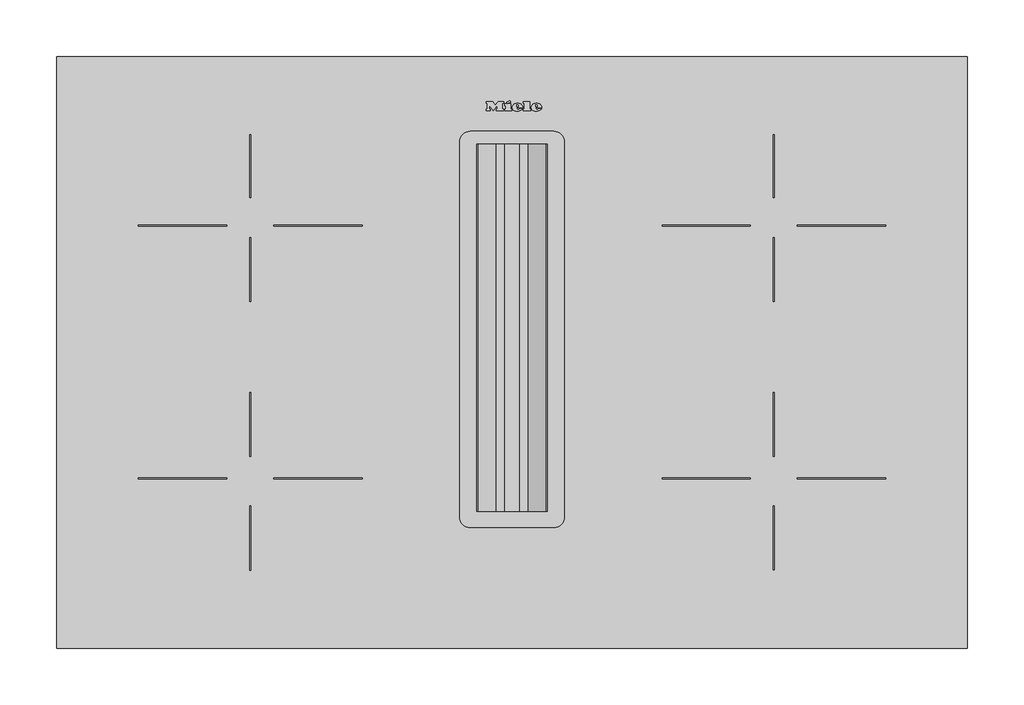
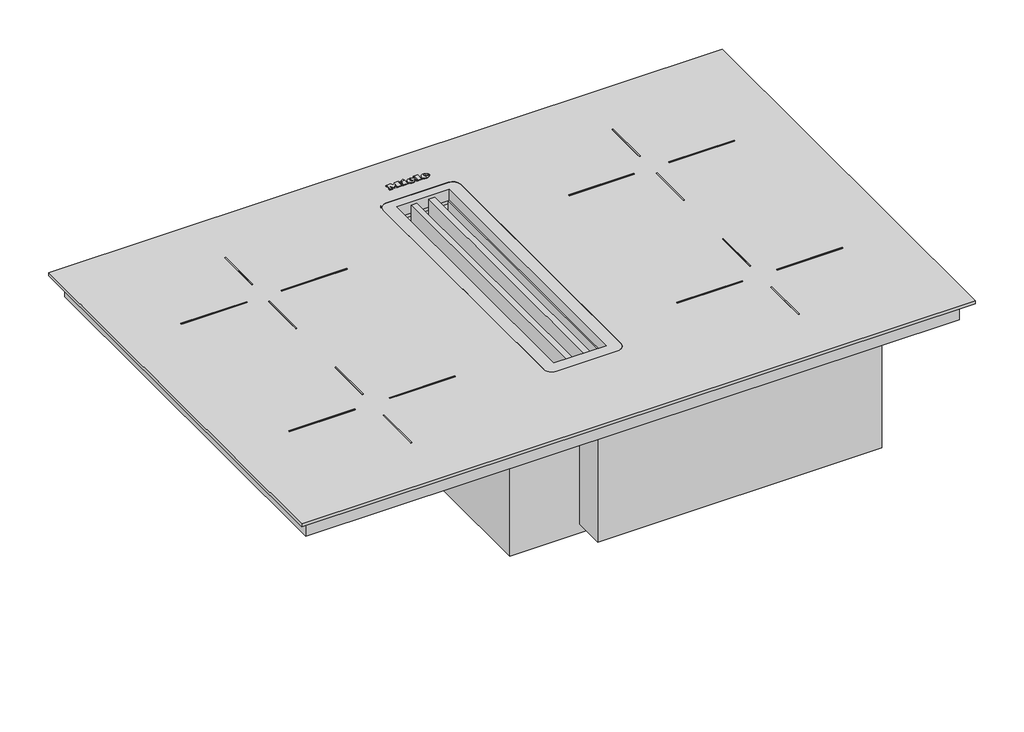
# Not in any storey: 1 proxy.
"""IFC4 building model written with IfcOpenShell, lengths in millimetres."""

import ifcopenshell
import ifcopenshell.guid

model = None  # the IFC model being written
_history = None  # IfcOwnerHistory: only IFC2X3 demands one
_inside = {}  # id of a spatial element -> (the spatial element, [elements in it])
_under = {}  # id of a project, library or spatial element -> (it, [spatial elements below it])
_declared = {}  # id of a project -> (the project, [libraries it declares])
_typed = {}  # id of a type object -> (the type object, [elements of that type])
_made_of = {}  # id of a material, layer set ... -> (it, [elements and type objects made of it])


def new_model(schema):
    """Start an empty IFC model of exactly this schema.

    Asked for "IFC4X3", IfcOpenShell would pick the latest addendum, in which some entities
    have other attributes; the version numbers below select the first issue.
    IFC2X3 requires an IfcOwnerHistory on every rooted entity: one is made here for all.
    """
    global model, _history
    if schema == "IFC4X3":
        model = ifcopenshell.file(schema_version=(4, 3, 0, 0))
    else:
        model = ifcopenshell.file(schema=schema)
    _inside.clear()
    _under.clear()
    _declared.clear()
    _typed.clear()
    _made_of.clear()
    _history = None
    if model.schema == "IFC2X3":
        org = make("IfcOrganization", Name="unknown")
        user = make(
            "IfcPersonAndOrganization",
            ThePerson=make("IfcPerson", FamilyName="unknown"),
            TheOrganization=org,
        )
        app = make(
            "IfcApplication",
            ApplicationDeveloper=org,
            Version="unknown",
            ApplicationFullName="unknown",
            ApplicationIdentifier="unknown",
        )
        _history = make(
            "IfcOwnerHistory",
            OwningUser=user,
            OwningApplication=app,
            ChangeAction="ADDED",
            CreationDate=0,
        )
    return model


def make(cls, **values):
    """One entity of the class cls with the attributes given. An attribute that is None is left unset."""
    return model.create_entity(
        cls, **{name: value for name, value in values.items() if value is not None}
    )


def rooted(cls, **values):
    """An entity with a GlobalId (a new one), such as an element, a storey or a relation."""
    return make(cls, GlobalId=ifcopenshell.guid.new(), OwnerHistory=_history, **values)


def si_unit(unit_type, name, prefix=None):
    """IfcSIUnit, for example si_unit("LENGTHUNIT", "METRE", prefix="MILLI")."""
    return make("IfcSIUnit", UnitType=unit_type, Prefix=prefix, Name=name)


def assignment(units):
    """IfcUnitAssignment: the units of a project."""
    return None if units is None else make("IfcUnitAssignment", Units=units)


def point(xyz):
    """IfcCartesianPoint."""
    return None if xyz is None else make("IfcCartesianPoint", Coordinates=xyz)


def direction(xyz):
    """IfcDirection."""
    return None if xyz is None else make("IfcDirection", DirectionRatios=xyz)


def frame(location, z_axis=None, x_axis=None):
    """IfcAxis2Placement3D, a coordinate frame: its origin and axes. An axis left out is left unset."""
    return make(
        "IfcAxis2Placement3D",
        Location=point(location),
        Axis=direction(z_axis),
        RefDirection=direction(x_axis),
    )


def frame_2d(location, x_axis=None):
    """IfcAxis2Placement2D, a coordinate frame in the plane: its origin and x axis."""
    return make(
        "IfcAxis2Placement2D", Location=point(location), RefDirection=direction(x_axis)
    )


def origin():
    """The frame at (0, 0, 0) with its axes left unset."""
    return frame((0.0, 0.0, 0.0))


def origin_with_axes():
    """The frame at (0, 0, 0) with the z axis (0, 0, 1) and the x axis (1, 0, 0) written out."""
    return frame((0.0, 0.0, 0.0), z_axis=(0.0, 0.0, 1.0), x_axis=(1.0, 0.0, 0.0))


def place(relative_to, where):
    """IfcLocalPlacement: puts the frame where relative to a parent placement (None: the world)."""
    return make(
        "IfcLocalPlacement", PlacementRelTo=relative_to, RelativePlacement=where
    )


def context(
    kind, dimensions, precision=None, world=None, true_north=None, identifier=None
):
    """IfcGeometricRepresentationContext, for example the 3D "Model" context."""
    return make(
        "IfcGeometricRepresentationContext",
        ContextIdentifier=identifier,
        ContextType=kind,
        CoordinateSpaceDimension=dimensions,
        Precision=precision,
        WorldCoordinateSystem=world,
        TrueNorth=true_north,
    )


def project(units=None, contexts=None):
    """IfcProject with its units and contexts."""
    return rooted(
        "IfcProject",
        Name="project",
        RepresentationContexts=contexts,
        UnitsInContext=assignment(units),
    )


def spatial(cls, under=None, at=None, **own):
    """A site, building, storey or space (cls), placed at a placement, below another one or the project."""
    s = rooted(cls, ObjectPlacement=at, **own)
    if under is not None:
        _under.setdefault(under.id(), (under, []))[1].append(s)
    return s


def polyline(points):
    """IfcPolyline through the points."""
    return make("IfcPolyline", Points=[point(p) for p in points])


def circle_curve(where, radius):
    """IfcCircle in the frame where."""
    return make("IfcCircle", Position=where, Radius=radius)


def ellipse_curve(where, semi_axis1, semi_axis2):
    """IfcEllipse in the frame where."""
    return make(
        "IfcEllipse", Position=where, SemiAxis1=semi_axis1, SemiAxis2=semi_axis2
    )


def trimmed(basis, trim1, trim2, sense, master):
    """IfcTrimmedCurve: the piece of a basis curve between two trims."""
    return make(
        "IfcTrimmedCurve",
        BasisCurve=basis,
        Trim1=trim1,
        Trim2=trim2,
        SenseAgreement=sense,
        MasterRepresentation=master,
    )


def segment(curve, same_sense, transition):
    """IfcCompositeCurveSegment."""
    return make(
        "IfcCompositeCurveSegment",
        Transition=transition,
        SameSense=same_sense,
        ParentCurve=curve,
    )


def composite_curve(segments, self_intersect=None):
    """IfcCompositeCurve: segments joined end to end."""
    return make("IfcCompositeCurve", Segments=segments, SelfIntersect=self_intersect)


def outline(outer, holes=None, kind="AREA"):
    """IfcArbitraryClosedProfileDef: a profile drawn as a closed curve; with holes, ...WithVoids."""
    if holes is None:
        return make("IfcArbitraryClosedProfileDef", ProfileType=kind, OuterCurve=outer)
    return make(
        "IfcArbitraryProfileDefWithVoids",
        ProfileType=kind,
        OuterCurve=outer,
        InnerCurves=holes,
    )


def extrude(swept, where, along, depth):
    """IfcExtrudedAreaSolid: the profile swept, set in the frame where, extruded along a direction by depth."""
    return make(
        "IfcExtrudedAreaSolid",
        SweptArea=swept,
        Position=where,
        ExtrudedDirection=direction(along),
        Depth=depth,
    )


def faces_of(points, faces, orient=None, outer=None):
    """IfcFace entities. A face is a list of loops; a loop is a list of indices into points, from 0.

    orient and outer hold one flag for each loop. By default every Orientation is true, the
    first loop of a face is its IfcFaceOuterBound and the others are IfcFaceBound.
    """
    made = []
    for i, loops in enumerate(faces):
        bounds = []
        for j, loop in enumerate(loops):
            is_outer = j == 0 if outer is None else outer[i][j]
            bounds.append(
                make(
                    "IfcFaceOuterBound" if is_outer else "IfcFaceBound",
                    Bound=make("IfcPolyLoop", Polygon=[points[k] for k in loop]),
                    Orientation=True if orient is None else orient[i][j],
                )
            )
        made.append(make("IfcFace", Bounds=bounds))
    return made


def faceted_brep(points, faces, orient=None, outer=None, voids=None):
    """IfcFacetedBrep: a solid bounded by flat faces; with voids (closed shells), ...WithVoids."""
    shared = [point(p) for p in points]
    hull = make("IfcClosedShell", CfsFaces=faces_of(shared, faces, orient, outer))
    if voids is None:
        return make("IfcFacetedBrep", Outer=hull)
    return make(
        "IfcFacetedBrepWithVoids",
        Outer=hull,
        Voids=[
            make(cls, CfsFaces=faces_of(shared, fs, o, b)) for cls, fs, o, b in voids
        ],
    )


def shape(context_of_items, identifier, shape_type, items):
    """IfcShapeRepresentation: the items that make up one representation, for example the "Body"."""
    return make(
        "IfcShapeRepresentation",
        ContextOfItems=context_of_items,
        RepresentationIdentifier=identifier,
        RepresentationType=shape_type,
        Items=items,
    )


def source(mapping_origin, context_of_items, identifier, shape_type, items):
    """IfcRepresentationMap: a shape defined once, which mapped items show again and again."""
    return make(
        "IfcRepresentationMap",
        MappingOrigin=mapping_origin,
        MappedRepresentation=shape(context_of_items, identifier, shape_type, items),
    )


def transform(
    local_origin,
    x_axis=None,
    y_axis=None,
    z_axis=None,
    scale=None,
    scale2=None,
    scale3=None,
    uniform=True,
):
    """IfcCartesianTransformationOperator3D, or its non-uniform kind. x_axis, y_axis, z_axis: its Axis1, 2, 3."""
    if uniform:
        return make(
            "IfcCartesianTransformationOperator3D",
            Axis1=direction(x_axis),
            Axis2=direction(y_axis),
            LocalOrigin=point(local_origin),
            Scale=scale,
            Axis3=direction(z_axis),
        )
    return make(
        "IfcCartesianTransformationOperator3DnonUniform",
        Axis1=direction(x_axis),
        Axis2=direction(y_axis),
        LocalOrigin=point(local_origin),
        Scale=scale,
        Axis3=direction(z_axis),
        Scale2=scale2,
        Scale3=scale3,
    )


def mapped(mapping_source, mapping_target):
    """IfcMappedItem: shows the shape of a source again, moved by a transform."""
    return make(
        "IfcMappedItem", MappingSource=mapping_source, MappingTarget=mapping_target
    )


def made_of(thing, what):
    """Note that an element or type object is made of a material, layer set ...; save() writes the relation."""
    if what is not None:
        _made_of.setdefault(what.id(), (what, []))[1].append(thing)
    return thing


def element(
    cls,
    number,
    at=None,
    inside=None,
    cuts=None,
    type_object=None,
    material=None,
    context=None,
    identifier="Body",
    shape_type=None,
    held_by="IfcProductDefinitionShape",
    body=None,
    shapes=None,
    **own,
):
    """One element of the class cls, such as IfcWall. Its Tag is "e" and its number.

    at: its placement. inside: the storey or other place that contains it. cuts: it is an
    opening in that element (IfcRelVoidsElement). A single representation is given by context,
    identifier, shape_type and body (its items); several are given by shapes. held_by: the class
    of the entity that holds the representations. save() writes the other relations.
    """
    e = rooted(cls, Tag="e%d" % number, ObjectPlacement=at, **own)
    if body is not None:
        shapes = [shape(context, identifier, shape_type, body)]
    if shapes is not None:
        e.Representation = make(held_by, Representations=shapes)
    if inside is not None:
        _inside.setdefault(inside.id(), (inside, []))[1].append(e)
    if cuts is not None:
        rooted(
            "IfcRelVoidsElement", RelatingBuildingElement=cuts, RelatedOpeningElement=e
        )
    if type_object is not None:
        _typed.setdefault(type_object.id(), (type_object, []))[1].append(e)
    return made_of(e, material)


def aggregate(whole, parts):
    """IfcRelAggregates: a whole, such as a stair, and the parts it consists of."""
    return rooted("IfcRelAggregates", RelatingObject=whole, RelatedObjects=parts)


def save(model, path):
    """Write the relations noted so far, then the file.

    IfcRelAggregates (storeys below a building ...), IfcRelContainedInSpatialStructure (elements
    in a storey), IfcRelDefinesByType, IfcRelAssociatesMaterial and IfcRelDeclares: one each for
    every whole, place, type object, material and project.
    """
    for whole, parts in _under.values():
        aggregate(whole, parts)
    for where, things in _inside.values():
        rooted(
            "IfcRelContainedInSpatialStructure",
            RelatedElements=things,
            RelatingStructure=where,
        )
    for kind, things in _typed.values():
        rooted("IfcRelDefinesByType", RelatedObjects=things, RelatingType=kind)
    for what, things in _made_of.values():
        rooted("IfcRelAssociatesMaterial", RelatedObjects=things, RelatingMaterial=what)
    for by, libraries in _declared.values():
        rooted("IfcRelDeclares", RelatingContext=by, RelatedDefinitions=libraries)
    model.write(path)


def plane_surface(at):
    """IfcPlane: the flat surface through the origin of the frame at, square to its z axis."""
    return make("IfcPlane", Position=at)


def cylinder_surface(at, radius):
    """IfcCylindricalSurface: all points at the distance radius from the z axis of the frame at."""
    return make("IfcCylindricalSurface", Position=at, Radius=radius)


def revolved_surface(curve, axis_point, axis_direction):
    """IfcSurfaceOfRevolution: the curve turned about the line through axis_point along axis_direction."""
    return make(
        "IfcSurfaceOfRevolution",
        SweptCurve=make("IfcArbitraryOpenProfileDef", ProfileType="CURVE", Curve=curve),
        AxisPosition=make("IfcAxis1Placement", Location=point(axis_point), Axis=direction(axis_direction)),
    )


def extruded_surface(curve, direction_of_extrusion, depth):
    """IfcSurfaceOfLinearExtrusion: the curve pushed along a direction by depth."""
    return make(
        "IfcSurfaceOfLinearExtrusion",
        SweptCurve=make("IfcArbitraryOpenProfileDef", ProfileType="CURVE", Curve=curve),
        ExtrudedDirection=direction(direction_of_extrusion),
        Depth=depth,
    )


def advanced_brep(points, edges, surfaces, faces):
    """IfcAdvancedBrep: a solid bounded by faces that lie on surfaces and meet in shared edges.

    An edge is (start, end): straight between two places in points (the first is 0);
    or (start, end, curve); or (start, end, curve, False) where it runs against its curve.
    A face is (place in surfaces, loops), or (place, loops, False) where it looks against
    its surface's normal. A loop lists edges by number (the first is 1), with a minus sign
    where the edge is run from its end to its start. The first loop is the outer one.
    """
    corners = [point(p) for p in points]
    vertices = [make("IfcVertexPoint", VertexGeometry=c) for c in corners]
    made = []
    for start, end, *more in edges:
        made.append(
            make(
                "IfcEdgeCurve",
                EdgeStart=vertices[start],
                EdgeEnd=vertices[end],
                EdgeGeometry=more[0] if more else make("IfcPolyline", Points=[corners[start], corners[end]]),
                SameSense=more[1] if len(more) > 1 else True,
            )
        )
    hull = []
    for where, loops, *sense in faces:
        bounds = []
        for j, loop in enumerate(loops):
            ring = [make("IfcOrientedEdge", EdgeElement=made[abs(k) - 1], Orientation=k > 0) for k in loop]
            bounds.append(
                make(
                    "IfcFaceOuterBound" if j == 0 else "IfcFaceBound",
                    Bound=make("IfcEdgeLoop", EdgeList=ring),
                    Orientation=True,
                )
            )
        hull.append(make("IfcAdvancedFace", Bounds=bounds, FaceSurface=surfaces[where], SameSense=sense[0] if sense else True))
    return make("IfcAdvancedBrep", Outer=make("IfcClosedShell", CfsFaces=hull))


def specialty_equipment_1488fc75(model_context):
    return source(origin(), model_context, "Body", "SolidModel", [
        advanced_brep(
        [(20.8243124, 474.5406203, 5.0), (20.8243124, 475.3486203, 5.0), (26.1763124, 475.3486203, 5.0), (16.8643124, 475.3486203, 5.0), (19.0643124, 472.6446203, 5.0), (26.0403124, 474.5406203, 5.0), (23.6243124, 474.5406203, 5.0), (21.7203124, 473.6446203, 5.0), (20.8243124, 476.3726203, 5.0), (20.8243124, 477.2446203, 5.0), (22.1923124, 477.2446203, 5.0), (22.1923124, 476.3726203, 5.0), (20.8243124, 474.5406203, 4.0), (21.7203124, 473.6446203, 4.0), (23.6243124, 474.5406203, 4.0), (26.0403124, 474.5406203, 4.0), (19.0643124, 472.6446203, 4.0), (16.8643124, 475.3486203, 4.0), (26.1763124, 475.3486203, 4.0), (20.8243124, 475.3486203, 4.0), (20.8243124, 476.3726203, 4.0), (22.1923124, 476.3726203, 4.0), (22.1923124, 477.2446203, 4.0), (20.8243124, 477.2446203, 4.0)],
        [
            (0, 1),
            (1, 2),
            (2, 3, ellipse_curve(frame((21.5203124, 475.3486203, 5.0), z_axis=(0.0, 0.0, 1.0), x_axis=(-1.0, 0.0, 0.0)), 4.656, 3.848)),
            (3, 4, circle_curve(frame((19.960356, 475.6206203, 5.0), z_axis=(0.0, 0.0, 1.0), x_axis=(0.0, -1.0, 0.0)), 3.1079688)),
            (4, 5, circle_curve(frame((21.4271059, 477.7326203, 5.0), z_axis=(0.0, 0.0, 1.0), x_axis=(0.0, -1.0, 0.0)), 5.6098607)),
            (5, 6),
            (6, 7, circle_curve(frame((22.1113712, 475.2846203, 5.0), z_axis=(0.0, 0.0, -1.0), x_axis=(0.0, -1.0, 0.0)), 1.6859795)),
            (7, 0, circle_curve(frame((21.7203124, 474.5406203, 5.0), z_axis=(0.0, 0.0, -1.0), x_axis=(0.0, -1.0, 0.0)), 0.896)),
            (8, 9),
            (9, 10, circle_curve(frame((21.5083124, 477.2446203, 5.0), z_axis=(0.0, 0.0, -1.0), x_axis=(0.0, -1.0, 0.0)), 0.684)),
            (10, 11),
            (11, 8),
            (12, 13, circle_curve(frame((21.7203124, 474.5406203, 4.0), z_axis=(0.0, 0.0, 1.0), x_axis=(0.0, -1.0, 0.0)), 0.896)),
            (13, 14, circle_curve(frame((22.1113712, 475.2846203, 4.0), z_axis=(0.0, 0.0, 1.0), x_axis=(0.0, -1.0, 0.0)), 1.6859795)),
            (14, 15),
            (15, 16, circle_curve(frame((21.4271059, 477.7326203, 4.0), z_axis=(0.0, 0.0, -1.0), x_axis=(0.0, -1.0, 0.0)), 5.6098607)),
            (16, 17, circle_curve(frame((19.960356, 475.6206203, 4.0), z_axis=(0.0, 0.0, -1.0), x_axis=(0.0, -1.0, 0.0)), 3.1079688)),
            (17, 18, ellipse_curve(frame((21.5203124, 475.3486203, 4.0), z_axis=(0.0, 0.0, -1.0), x_axis=(-1.0, 0.0, 0.0)), 4.656, 3.848)),
            (18, 19),
            (19, 12),
            (20, 21),
            (21, 22),
            (22, 23, circle_curve(frame((21.5083124, 477.2446203, 4.0), z_axis=(0.0, 0.0, 1.0), x_axis=(0.0, -1.0, 0.0)), 0.684)),
            (23, 20),
            (0, 12),
            (19, 1),
            (18, 2),
            (5, 15),
            (14, 6),
            (17, 3),
            (13, 7),
            (16, 4),
            (8, 20),
            (23, 9),
            (22, 10),
            (21, 11),
        ],
        [
            plane_surface(frame((20.8243124, 475.3486203, 5.0), z_axis=(0.0, 0.0, 1.0), x_axis=(0.0, 1.0, 0.0))),
            plane_surface(frame((20.8243124, 475.3486203, 4.0), z_axis=(0.0, 0.0, -1.0), x_axis=(0.0, -1.0, 0.0))),
            plane_surface(frame((20.8243124, 474.5406203, 5.0), z_axis=(1.0, 0.0, 0.0), x_axis=(0.0, 0.0, -1.0))),
            plane_surface(frame((20.8243124, 475.3486203, 5.0), z_axis=(0.0, -1.0, 0.0), x_axis=(0.0, 0.0, -1.0))),
            plane_surface(frame((26.0403124, 474.5406203, 5.0), z_axis=(0.0, 1.0, 0.0), x_axis=(0.0, 0.0, -1.0))),
            extruded_surface(trimmed(ellipse_curve(frame((21.5203124, 475.3486203, 3.0), z_axis=(0.0, 0.0, 1.0), x_axis=(-1.0, 0.0, 0.0)), 4.656, 3.848), [point((26.1763124, 475.3486203, 3.0))], [point((16.8643124, 475.3486203, 3.0))], True, "CARTESIAN"), (0.0, 0.0, 1.0), 1.0),
            revolved_surface(polyline([(22.1113712, 473.5986408, 4.0), (22.1113712, 473.5986408, 5.0)]), (22.1113712, 475.2846203, 4.0), (0.0, 0.0, -1.0)),
            revolved_surface(polyline([(21.7203124, 473.6446203, 4.0), (21.7203124, 473.6446203, 5.0)]), (21.7203124, 474.5406203, 4.0), (0.0, 0.0, -1.0)),
            cylinder_surface(frame((19.960356, 475.6206203, 4.0), z_axis=(0.0, 0.0, 1.0), x_axis=(0.0, -1.0, 0.0)), 3.1079688),
            cylinder_surface(frame((21.4271059, 477.7326203, 4.0), z_axis=(0.0, 0.0, 1.0), x_axis=(0.0, -1.0, 0.0)), 5.6098607),
            plane_surface(frame((20.8243124, 476.3726203, 5.0), z_axis=(1.0, 0.0, 0.0), x_axis=(0.0, 0.0, -1.0))),
            revolved_surface(polyline([(21.5083124, 476.5606203, 4.0), (21.5083124, 476.5606203, 5.0)]), (21.5083124, 477.2446203, 4.0), (0.0, 0.0, -1.0)),
            plane_surface(frame((22.1923124, 477.2446203, 5.0), z_axis=(-1.0, 0.0, 0.0), x_axis=(0.0, 0.0, -1.0))),
            plane_surface(frame((22.1923124, 476.3726203, 5.0), z_axis=(0.0, 1.0, 0.0), x_axis=(0.0, 0.0, -1.0))),
        ],
        [
            (0, [[1, 2, 3, 4, 5, 6, 7, 8], [9, 10, 11, 12]]),
            (1, [[13, 14, 15, 16, 17, 18, 19, 20], [21, 22, 23, 24]]),
            (2, [[-1, 25, -20, 26]]),
            (3, [[-2, -26, -19, 27]]),
            (4, [[-6, 28, -15, 29]]),
            (5, [[-3, -27, -18, 30]]),
            (6, [[-7, -29, -14, 31]]),
            (7, [[-8, -31, -13, -25]]),
            (8, [[-4, -30, -17, 32]]),
            (9, [[-5, -32, -16, -28]]),
            (10, [[-9, 33, -24, 34]]),
            (11, [[-10, -34, -23, 35]]),
            (12, [[-11, -35, -22, 36]]),
            (13, [[-12, -36, -21, -33]]),
        ],
    ),
        advanced_brep(
        [(4.1283124, 474.5406203, 5.0), (4.1283124, 475.3486203, 5.0), (9.4803124, 475.3486203, 5.0), (0.1683124, 475.3486203, 5.0), (2.3683124, 472.6446203, 5.0), (9.3443124, 474.5406203, 5.0), (6.9283124, 474.5406203, 5.0), (5.0243124, 473.6446203, 5.0), (4.1283124, 476.3726203, 5.0), (4.1283124, 477.2446203, 5.0), (5.4963124, 477.2446203, 5.0), (5.4963124, 476.3726203, 5.0), (4.1283124, 474.5406203, 4.0), (5.0243124, 473.6446203, 4.0), (6.9283124, 474.5406203, 4.0), (9.3443124, 474.5406203, 4.0), (2.3683124, 472.6446203, 4.0), (0.1683124, 475.3486203, 4.0), (9.4803124, 475.3486203, 4.0), (4.1283124, 475.3486203, 4.0), (4.1283124, 476.3726203, 4.0), (5.4963124, 476.3726203, 4.0), (5.4963124, 477.2446203, 4.0), (4.1283124, 477.2446203, 4.0)],
        [
            (0, 1),
            (1, 2),
            (2, 3, ellipse_curve(frame((4.8243124, 475.3486203, 5.0), z_axis=(0.0, 0.0, 1.0), x_axis=(-1.0, 0.0, 0.0)), 4.656, 3.848)),
            (3, 4, circle_curve(frame((3.264356, 475.6206203, 5.0), z_axis=(0.0, 0.0, 1.0), x_axis=(0.0, -1.0, 0.0)), 3.1079688)),
            (4, 5, circle_curve(frame((4.7311059, 477.7326203, 5.0), z_axis=(0.0, 0.0, 1.0), x_axis=(0.0, -1.0, 0.0)), 5.6098607)),
            (5, 6),
            (6, 7, circle_curve(frame((5.4153712, 475.2846203, 5.0), z_axis=(0.0, 0.0, -1.0), x_axis=(0.0, -1.0, 0.0)), 1.6859795)),
            (7, 0, circle_curve(frame((5.0243124, 474.5406203, 5.0), z_axis=(0.0, 0.0, -1.0), x_axis=(0.0, -1.0, 0.0)), 0.896)),
            (8, 9),
            (9, 10, circle_curve(frame((4.8123124, 477.2446203, 5.0), z_axis=(0.0, 0.0, -1.0), x_axis=(0.0, -1.0, 0.0)), 0.684)),
            (10, 11),
            (11, 8),
            (12, 13, circle_curve(frame((5.0243124, 474.5406203, 4.0), z_axis=(0.0, 0.0, 1.0), x_axis=(0.0, -1.0, 0.0)), 0.896)),
            (13, 14, circle_curve(frame((5.4153712, 475.2846203, 4.0), z_axis=(0.0, 0.0, 1.0), x_axis=(0.0, -1.0, 0.0)), 1.6859795)),
            (14, 15),
            (15, 16, circle_curve(frame((4.7311059, 477.7326203, 4.0), z_axis=(0.0, 0.0, -1.0), x_axis=(0.0, -1.0, 0.0)), 5.6098607)),
            (16, 17, circle_curve(frame((3.264356, 475.6206203, 4.0), z_axis=(0.0, 0.0, -1.0), x_axis=(0.0, -1.0, 0.0)), 3.1079688)),
            (17, 18, ellipse_curve(frame((4.8243124, 475.3486203, 4.0), z_axis=(0.0, 0.0, -1.0), x_axis=(-1.0, 0.0, 0.0)), 4.656, 3.848)),
            (18, 19),
            (19, 12),
            (20, 21),
            (21, 22),
            (22, 23, circle_curve(frame((4.8123124, 477.2446203, 4.0), z_axis=(0.0, 0.0, 1.0), x_axis=(0.0, -1.0, 0.0)), 0.684)),
            (23, 20),
            (0, 12),
            (19, 1),
            (18, 2),
            (5, 15),
            (14, 6),
            (17, 3),
            (13, 7),
            (16, 4),
            (8, 20),
            (23, 9),
            (22, 10),
            (21, 11),
        ],
        [
            plane_surface(frame((4.1283124, 475.3486203, 5.0), z_axis=(0.0, 0.0, 1.0), x_axis=(0.0, 1.0, 0.0))),
            plane_surface(frame((4.1283124, 475.3486203, 4.0), z_axis=(0.0, 0.0, -1.0), x_axis=(0.0, -1.0, 0.0))),
            plane_surface(frame((4.1283124, 474.5406203, 5.0), z_axis=(1.0, 0.0, 0.0), x_axis=(0.0, 0.0, -1.0))),
            plane_surface(frame((4.1283124, 475.3486203, 5.0), z_axis=(0.0, -1.0, 0.0), x_axis=(0.0, 0.0, -1.0))),
            plane_surface(frame((9.3443124, 474.5406203, 5.0), z_axis=(0.0, 1.0, 0.0), x_axis=(0.0, 0.0, -1.0))),
            extruded_surface(trimmed(ellipse_curve(frame((4.8243124, 475.3486203, 3.0), z_axis=(0.0, 0.0, 1.0), x_axis=(-1.0, 0.0, 0.0)), 4.656, 3.848), [point((9.4803124, 475.3486203, 3.0))], [point((0.1683124, 475.3486203, 3.0))], True, "CARTESIAN"), (0.0, 0.0, 1.0), 1.0),
            revolved_surface(polyline([(5.4153712, 473.5986408, 4.0), (5.4153712, 473.5986408, 5.0)]), (5.4153712, 475.2846203, 4.0), (0.0, 0.0, -1.0)),
            revolved_surface(polyline([(5.0243124, 473.6446203, 4.0), (5.0243124, 473.6446203, 5.0)]), (5.0243124, 474.5406203, 4.0), (0.0, 0.0, -1.0)),
            cylinder_surface(frame((3.264356, 475.6206203, 4.0), z_axis=(0.0, 0.0, 1.0), x_axis=(0.0, -1.0, 0.0)), 3.1079688),
            cylinder_surface(frame((4.7311059, 477.7326203, 4.0), z_axis=(0.0, 0.0, 1.0), x_axis=(0.0, -1.0, 0.0)), 5.6098607),
            plane_surface(frame((4.1283124, 476.3726203, 5.0), z_axis=(1.0, 0.0, 0.0), x_axis=(0.0, 0.0, -1.0))),
            revolved_surface(polyline([(4.8123124, 476.5606203, 4.0), (4.8123124, 476.5606203, 5.0)]), (4.8123124, 477.2446203, 4.0), (0.0, 0.0, -1.0)),
            plane_surface(frame((5.4963124, 477.2446203, 5.0), z_axis=(-1.0, 0.0, 0.0), x_axis=(0.0, 0.0, -1.0))),
            plane_surface(frame((5.4963124, 476.3726203, 5.0), z_axis=(0.0, 1.0, 0.0), x_axis=(0.0, 0.0, -1.0))),
        ],
        [
            (0, [[1, 2, 3, 4, 5, 6, 7, 8], [9, 10, 11, 12]]),
            (1, [[13, 14, 15, 16, 17, 18, 19, 20], [21, 22, 23, 24]]),
            (2, [[-1, 25, -20, 26]]),
            (3, [[-2, -26, -19, 27]]),
            (4, [[-6, 28, -15, 29]]),
            (5, [[-3, -27, -18, 30]]),
            (6, [[-7, -29, -14, 31]]),
            (7, [[-8, -31, -13, -25]]),
            (8, [[-4, -30, -17, 32]]),
            (9, [[-5, -32, -16, -28]]),
            (10, [[-9, 33, -24, 34]]),
            (11, [[-10, -34, -23, 35]]),
            (12, [[-11, -35, -22, 36]]),
            (13, [[-12, -36, -21, -33]]),
        ],
    ),
        extrude(outline(polyline([(-4.6156876, 480.1726203), (-1.8956876, 481.4366203), (-1.2956876, 480.1406203), (-4.0076876, 478.8766203), (-4.6156876, 480.1726203)])), frame((0.0, 0.0, 4.0), z_axis=(0.0, 0.0, 1.0), x_axis=(1.0, 0.0, 0.0)), (0.0, 0.0, 1.0), 1.0),
        extrude(outline(polyline([(-6.5916876, 478.7006203), (-1.2076876, 478.7006203), (-1.2076876, 473.9886203), (-0.2796876, 473.9886203), (-0.2796876, 472.6446203), (-6.5916876, 472.6446203), (-6.5916876, 473.9886203), (-5.6396876, 473.9886203), (-5.6396876, 477.2686203), (-6.5916876, 477.2686203), (-6.5916876, 478.7006203)])), frame((0.0, 0.0, 4.0), z_axis=(0.0, 0.0, 1.0), x_axis=(1.0, 0.0, 0.0)), (0.0, 0.0, 1.0), 1.0),
        extrude(outline(polyline([(9.9283124, 479.3406203), (9.9283124, 480.6446203), (15.4323124, 480.6446203), (15.4323124, 473.9886203), (16.4163124, 473.9886203), (16.4163124, 472.6446203), (9.9283124, 472.6446203), (9.9283124, 473.9886203), (10.8883124, 473.9886203), (10.8883124, 479.3406203), (9.9283124, 479.3406203)])), frame((0.0, 0.0, 4.0), z_axis=(0.0, 0.0, 1.0), x_axis=(1.0, 0.0, 0.0)), (0.0, 0.0, 1.0), 1.0),
        extrude(outline(polyline([(-22.5356876, 479.3406203), (-22.5356876, 480.6446203), (-16.9596876, 480.6446203), (-14.6156876, 477.6446203), (-12.2796876, 480.6446203), (-7.4076876, 480.6446203), (-7.4076876, 479.3406203), (-8.4236876, 479.3406203), (-8.4236876, 473.9886203), (-7.4076876, 473.9886203), (-7.4076876, 472.6446203), (-13.7916876, 472.6446203), (-13.7916876, 473.9886203), (-12.8076876, 473.9886203), (-12.8076876, 477.4598426), (-16.3996876, 472.6446203), (-19.9756876, 477.3917451), (-19.9756876, 473.9886203), (-19.0156876, 473.9886203), (-19.0156876, 472.6446203), (-22.5356876, 472.6446203), (-22.5356876, 473.9886203), (-21.5676876, 473.9886203), (-21.5676876, 479.3406203), (-22.5356876, 479.3406203)])), frame((0.0, 0.0, 4.0), z_axis=(0.0, 0.0, 1.0), x_axis=(1.0, 0.0, 0.0)), (0.0, 0.0, 1.0), 1.0),
        faceted_brep([(-71.7186221, 460.5236466, -23.0), (-364.8972461, 460.5236466, -23.0), (-364.8972461, 59.427471, -23.0), (-71.7186221, 59.427471, -23.0), (-71.7186221, 59.427471, -49.8134964), (-364.8972461, 59.427471, -49.8134964), (-364.8972461, 460.5236466, -49.8134964), (-86.144412, 460.5236466, -49.8134964), (-86.144412, 352.5236466, -49.8134964), (-71.7186221, 352.5236466, -49.8134964), (-71.7186221, 460.5236466, -31.728133), (-86.144412, 460.5236466, -31.728133), (-71.7186221, 352.5236466, -31.728133), (-86.144412, 352.5236466, -31.728133)], [[[0, 1, 2, 3]], [[4, 5, 6, 7, 8, 9]], [[1, 0, 10, 11, 7, 6]], [[2, 1, 6, 5]], [[3, 2, 5, 4]], [[0, 3, 4, 9, 12, 10]], [[8, 13, 12, 9]], [[12, 13, 11, 10]], [[13, 8, 7, 11]]]),
        extrude(outline(polyline([(388.0, 508.0), (388.0, 12.0), (-388.0, 12.0), (-388.0, 508.0), (388.0, 508.0)]), holes=[composite_curve([segment(trimmed(circle_curve(frame_2d((36.5, 115.5)), 9.5), [point((36.5, 106.0))], [point((46.0, 115.5))], True, "CARTESIAN"), True, "CONTINUOUS"), segment(polyline([(46.0, 115.5), (46.0, 445.0)]), True, "CONTINUOUS"), segment(trimmed(circle_curve(frame_2d((36.5, 445.0)), 9.5), [point((46.0, 445.0))], [point((36.5, 454.5))], True, "CARTESIAN"), True, "CONTINUOUS"), segment(polyline([(36.5, 454.5), (-36.5395335, 454.5)]), True, "CONTINUOUS"), segment(trimmed(circle_curve(frame_2d((-36.5395335, 445.0395335)), 9.4604665), [point((-36.5395335, 454.5))], [point((-46.0, 445.0395335))], True, "CARTESIAN"), True, "CONTINUOUS"), segment(polyline([(-46.0, 445.0395335), (-46.0, 115.5)]), True, "CONTINUOUS"), segment(trimmed(circle_curve(frame_2d((-36.5, 115.5)), 9.5), [point((-46.0, 115.5))], [point((-36.5, 106.0))], True, "CARTESIAN"), True, "CONTINUOUS"), segment(polyline([(-36.5, 106.0), (36.5, 106.0)]), True, "CONTINUOUS")], self_intersect=False)]), frame((0.0, 0.0, -23.0), z_axis=(0.0, 0.0, 1.0), x_axis=(1.0, 0.0, 0.0)), (0.0, 0.0, 1.0), 23.0),
        extrude(outline(polyline([(400.0, 520.0), (400.0, 0.0), (-400.0, 0.0), (-400.0, 520.0), (400.0, 520.0)]), holes=[composite_curve([segment(polyline([(36.5, 454.5), (-36.5, 454.5)]), True, "CONTINUOUS"), segment(trimmed(circle_curve(frame_2d((-36.5, 445.0)), 9.5), [point((-36.5, 454.5))], [point((-46.0, 445.0))], True, "CARTESIAN"), True, "CONTINUOUS"), segment(polyline([(-46.0, 445.0), (-46.0, 115.5)]), True, "CONTINUOUS"), segment(trimmed(circle_curve(frame_2d((-36.5, 115.5)), 9.5), [point((-46.0, 115.5))], [point((-36.5, 106.0))], True, "CARTESIAN"), True, "CONTINUOUS"), segment(polyline([(-36.5, 106.0), (36.5, 106.0)]), True, "CONTINUOUS"), segment(trimmed(circle_curve(frame_2d((36.5, 115.5)), 9.5), [point((36.5, 106.0))], [point((46.0, 115.5))], True, "CARTESIAN"), True, "CONTINUOUS"), segment(polyline([(46.0, 115.5), (46.0, 445.0)]), True, "CONTINUOUS"), segment(trimmed(circle_curve(frame_2d((36.5, 445.0)), 9.5), [point((46.0, 445.0))], [point((36.5, 454.5))], True, "CARTESIAN"), True, "CONTINUOUS")], self_intersect=False)]), origin_with_axes(), (0.0, 0.0, 1.0), 4.0),
        extrude(outline(polyline([(229.5, 361.0), (230.5, 361.0), (230.5, 305.0), (229.5, 305.0), (229.5, 361.0)])), frame((0.0, 0.0, 4.0), z_axis=(0.0, 0.0, 1.0), x_axis=(1.0, 0.0, 0.0)), (0.0, 0.0, 1.0), 1.0),
        extrude(outline(polyline([(230.5, 168.6409309), (229.5, 168.6409309), (229.5, 224.6409309), (230.5, 224.6409309), (230.5, 168.6409309)])), frame((0.0, 0.0, 4.0), z_axis=(0.0, 0.0, 1.0), x_axis=(1.0, 0.0, 0.0)), (0.0, 0.0, 1.0), 1.0),
        extrude(outline(polyline([(-229.5, 361.0), (-229.5, 305.0), (-230.5, 305.0), (-230.5, 361.0), (-229.5, 361.0)])), frame((0.0, 0.0, 4.0), z_axis=(0.0, 0.0, 1.0), x_axis=(1.0, 0.0, 0.0)), (0.0, 0.0, 1.0), 1.0),
        extrude(outline(polyline([(-230.5, 168.6409309), (-230.5, 224.6409309), (-229.5, 224.6409309), (-229.5, 168.6409309), (-230.5, 168.6409309)])), frame((0.0, 0.0, 4.0), z_axis=(0.0, 0.0, 1.0), x_axis=(1.0, 0.0, 0.0)), (0.0, 0.0, 1.0), 1.0),
        extrude(outline(polyline([(-45.5823584, -70.2509053), (-35.5367274, -70.2509053), (-35.5367274, -77.4712026), (-36.7924312, -77.4712026), (-36.7924312, -71.5066091), (-39.7747279, -71.5066091), (-39.7747279, -77.1572766), (-41.0304318, -77.1572766), (-41.0304318, -71.5066091), (-44.3266545, -71.5066091), (-44.3266545, -77.6281655), (-45.5823584, -77.6281655), (-45.5823584, -70.2509053)])), frame((0.0, 405.5236466, 0.0), z_axis=(0.0, 1.0, 0.0), x_axis=(0.0, 0.0, 1.0)), (0.0, 0.0, 1.0), 1.0),
        extrude(outline(polyline([(-45.5823584, -79.5117214), (-35.5367274, -79.5117214), (-35.5367274, -80.7674252), (-44.3266545, -80.7674252), (-44.3266545, -85.7902407), (-45.5823584, -85.7902407), (-45.5823584, -79.5117214)])), frame((0.0, 405.5236466, 0.0), z_axis=(0.0, 1.0, 0.0), x_axis=(0.0, 0.0, 1.0)), (0.0, 0.0, 1.0), 1.0),
        advanced_brep(
        [(-86.144412, 370.5236466, -40.8134964), (-86.144412, 380.5236466, -40.8134964), (-71.144412, 370.5236466, -40.8134964), (-81.144412, 380.5236466, -40.8134964), (-71.144412, 405.5236466, -40.8134964), (-81.144412, 405.5236466, -40.8134964)],
        [
            (0, 1, circle_curve(frame((-86.144412, 375.5236466, -40.8134964), z_axis=(-1.0, 0.0, 0.0), x_axis=(0.0, 1.0, 0.0)), 5.0)),
            (1, 0, circle_curve(frame((-86.144412, 375.5236466, -40.8134964), z_axis=(-1.0, 0.0, 0.0), x_axis=(0.0, 1.0, 0.0)), 5.0)),
            (0, 2),
            (2, 3, ellipse_curve(frame((-76.144412, 375.5236466, -40.8134964), z_axis=(-0.7071067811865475, -0.7071067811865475, 0.0), x_axis=(-0.7071067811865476, 0.7071067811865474, 0.0)), 7.0710678, 5.0)),
            (3, 1),
            (3, 2, ellipse_curve(frame((-76.144412, 375.5236466, -40.8134964), z_axis=(-0.7071067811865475, -0.7071067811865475, 0.0), x_axis=(-0.7071067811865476, 0.7071067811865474, 0.0)), 7.0710678, 5.0)),
            (4, 5, circle_curve(frame((-76.144412, 405.5236466, -40.8134964), z_axis=(0.0, 1.0, 0.0), x_axis=(-1.0, 0.0, 0.0)), 5.0)),
            (5, 4, circle_curve(frame((-76.144412, 405.5236466, -40.8134964), z_axis=(0.0, 1.0, 0.0), x_axis=(-1.0, 0.0, 0.0)), 5.0)),
            (2, 4),
            (5, 3),
        ],
        [
            plane_surface(frame((-86.144412, 375.5236466, 0.0), z_axis=(-1.0, 0.0, 0.0), x_axis=(0.0, 0.0, 1.0))),
            cylinder_surface(frame((-86.144412, 375.5236466, -40.8134964), z_axis=(-1.0, 0.0, 0.0), x_axis=(0.0, 1.0, 0.0)), 5.0),
            plane_surface(frame((-76.144412, 405.5236466, 0.0), z_axis=(0.0, 1.0, 0.0), x_axis=(0.0, 0.0, 1.0))),
            cylinder_surface(frame((-76.144412, 375.5236466, -40.8134964), z_axis=(0.0, -1.0, 0.0), x_axis=(-1.0, 0.0, 0.0)), 5.0),
        ],
        [
            (0, [[1, 2]]),
            (1, [[-1, 3, 4, 5]]),
            (1, [[-2, -5, 6, -3]]),
            (2, [[7, 8]]),
            (3, [[-4, 9, -8, 10]]),
            (3, [[-6, -10, -7, -9]]),
        ],
    ),
        extrude(outline(polyline([(-250.5, 372.0), (-250.5, 371.0), (-328.5, 371.0), (-328.5, 372.0), (-250.5, 372.0)])), frame((0.0, 0.0, 4.0), z_axis=(0.0, 0.0, 1.0), x_axis=(1.0, 0.0, 0.0)), (0.0, 0.0, 1.0), 1.0),
        extrude(outline(polyline([(-131.5, 372.0), (-131.5, 371.0), (-209.5, 371.0), (-209.5, 372.0), (-131.5, 372.0)])), frame((0.0, 0.0, 4.0), z_axis=(0.0, 0.0, 1.0), x_axis=(1.0, 0.0, 0.0)), (0.0, 0.0, 1.0), 1.0),
        extrude(outline(polyline([(-250.5, 148.7), (-328.4422621, 148.7), (-328.4422621, 149.7), (-250.5, 149.7), (-250.5, 148.7)])), frame((0.0, 0.0, 4.0), z_axis=(0.0, 0.0, 1.0), x_axis=(1.0, 0.0, 0.0)), (0.0, 0.0, 1.0), 1.0),
        extrude(outline(polyline([(-131.5, 149.7), (-131.5, 148.7), (-209.5, 148.7), (-209.5, 149.7), (-131.5, 149.7)])), frame((0.0, 0.0, 4.0), z_axis=(0.0, 0.0, 1.0), x_axis=(1.0, 0.0, 0.0)), (0.0, 0.0, 1.0), 1.0),
        extrude(outline(polyline([(250.5, 372.0), (328.5, 372.0), (328.5, 371.0), (250.5, 371.0), (250.5, 372.0)])), frame((0.0, 0.0, 4.0), z_axis=(0.0, 0.0, 1.0), x_axis=(1.0, 0.0, 0.0)), (0.0, 0.0, 1.0), 1.0),
        extrude(outline(polyline([(132.0, 372.0), (209.5, 372.0), (209.5, 371.0), (132.0, 371.0), (132.0, 372.0)])), frame((0.0, 0.0, 4.0), z_axis=(0.0, 0.0, 1.0), x_axis=(1.0, 0.0, 0.0)), (0.0, 0.0, 1.0), 1.0),
        extrude(outline(polyline([(-230.5, 68.5), (-230.5, 125.0), (-229.5, 125.0), (-229.5, 68.5), (-230.5, 68.5)])), frame((0.0, 0.0, 4.0), z_axis=(0.0, 0.0, 1.0), x_axis=(1.0, 0.0, 0.0)), (0.0, 0.0, 1.0), 1.0),
        extrude(outline(polyline([(230.5, 69.0), (229.5, 69.0), (229.5, 125.0), (230.5, 125.0), (230.5, 69.0)])), frame((0.0, 0.0, 4.0), z_axis=(0.0, 0.0, 1.0), x_axis=(1.0, 0.0, 0.0)), (0.0, 0.0, 1.0), 1.0),
        extrude(outline(polyline([(230.5, 451.5), (230.5, 396.0), (229.5, 396.0), (229.5, 451.5), (230.5, 451.5)])), frame((0.0, 0.0, 4.0), z_axis=(0.0, 0.0, 1.0), x_axis=(1.0, 0.0, 0.0)), (0.0, 0.0, 1.0), 1.0),
        extrude(outline(polyline([(-230.5, 451.5), (-229.5, 451.5), (-229.5, 396.0), (-230.5, 396.0), (-230.5, 451.5)])), frame((0.0, 0.0, 4.0), z_axis=(0.0, 0.0, 1.0), x_axis=(1.0, 0.0, 0.0)), (0.0, 0.0, 1.0), 1.0),
        extrude(outline(polyline([(250.5, 148.7), (250.5, 149.7), (328.5, 149.7), (328.5, 148.7), (250.5, 148.7)])), frame((0.0, 0.0, 4.0), z_axis=(0.0, 0.0, 1.0), x_axis=(1.0, 0.0, 0.0)), (0.0, 0.0, 1.0), 1.0),
        extrude(outline(polyline([(132.0, 148.7), (132.0, 149.7), (209.5, 149.7), (209.5, 148.7), (132.0, 148.7)])), frame((0.0, 0.0, 4.0), z_axis=(0.0, 0.0, 1.0), x_axis=(1.0, 0.0, 0.0)), (0.0, 0.0, 1.0), 1.0),
        extrude(outline(polyline([(14.0, 120.177901), (7.0, 120.177901), (7.0, 443.3010247), (14.0, 443.3010247), (14.0, 120.177901)])), frame((0.0, 0.0, -30.0), z_axis=(0.0, 0.0, 1.0), x_axis=(1.0, 0.0, 0.0)), (0.0, 0.0, 1.0), 30.0),
        extrude(outline(polyline([(-7.0, 120.177901), (-14.0, 120.177901), (-14.0, 443.3010247), (-7.0, 443.3010247), (-7.0, 120.177901)])), frame((0.0, 0.0, -30.0), z_axis=(0.0, 0.0, 1.0), x_axis=(1.0, 0.0, 0.0)), (0.0, 0.0, 1.0), 30.0),
        extrude(outline(polyline([(-150.3933796, 8.7812172), (-23.0, 31.0806576), (-9.6002538, 31.0806576), (-9.6002538, 30.0806576), (-22.9176, 30.0806576), (-149.3933796, 7.9334714), (-149.3933796, -10.4294884), (-23.1226136, -30.0513858), (-9.6002538, -30.0513858), (-9.6002538, -31.0802193), (-23.0, -31.0802193), (-150.3933796, -11.2930358), (-150.3933796, 8.7812172)])), frame((0.0, 120.177901, 0.0), z_axis=(0.0, 1.0, 0.0), x_axis=(0.0, 0.0, 1.0)), (0.0, 0.0, 1.0), 323.1231238),
        advanced_brep(
        [(65.0, 90.0, -196.0003671), (65.0, 90.0, -23.0), (-55.0, 90.0, -23.0), (-58.0, 90.0, -26.0), (-58.0, 90.0, -78.0), (-97.8585744, 90.0, -78.0), (-100.8585744, 90.0, -81.0), (-100.8585744, 90.0, -196.0003671), (65.0, 473.0, -196.0003671), (-100.8585744, 473.0, -196.0003671), (-100.8585744, 473.0, -81.0), (-97.8585744, 473.0, -78.0), (-58.0, 473.0, -78.0), (-58.0, 473.0, -26.0), (-55.0, 473.0, -23.0), (65.0, 473.0, -23.0), (-31.0802193, 443.3010247, -23.0), (31.0806576, 443.3010247, -23.0), (31.0806576, 120.177901, -23.0), (-31.0802193, 120.177901, -23.0), (31.0806576, 443.3010247, -150.3933796), (-31.0802193, 443.3010247, -150.3933796), (-31.0802193, 120.177901, -150.3933796), (31.0806576, 120.177901, -150.3933796)],
        [
            (0, 1),
            (1, 2),
            (2, 3, circle_curve(frame((-55.0, 90.0, -26.0), z_axis=(0.0, -1.0, 0.0), x_axis=(1.0, 0.0, 0.0)), 3.0)),
            (3, 4),
            (4, 5),
            (5, 6, circle_curve(frame((-97.8585744, 90.0, -81.0), z_axis=(0.0, -1.0, 0.0), x_axis=(1.0, 0.0, 0.0)), 3.0)),
            (6, 7),
            (7, 0),
            (8, 9),
            (9, 10),
            (10, 11, circle_curve(frame((-97.8585744, 473.0, -81.0), z_axis=(0.0, 1.0, 0.0), x_axis=(1.0, 0.0, 0.0)), 3.0)),
            (11, 12),
            (12, 13),
            (13, 14, circle_curve(frame((-55.0, 473.0, -26.0), z_axis=(0.0, 1.0, 0.0), x_axis=(1.0, 0.0, 0.0)), 3.0)),
            (14, 15),
            (15, 8),
            (0, 8),
            (15, 1),
            (14, 2),
            (16, 17),
            (17, 18),
            (18, 19),
            (19, 16),
            (3, 13),
            (12, 4),
            (11, 5),
            (6, 10),
            (9, 7),
            (20, 21),
            (21, 22),
            (22, 23),
            (23, 20),
            (20, 17),
            (16, 21),
            (19, 22),
            (18, 23),
        ],
        [
            plane_surface(frame((65.0, 90.0, -196.0003671), z_axis=(0.0, -1.0, 0.0), x_axis=(0.0, 0.0, 1.0))),
            plane_surface(frame((65.0, 473.0, -196.0003671), z_axis=(0.0, 1.0, 0.0), x_axis=(0.0, 0.0, -1.0))),
            plane_surface(frame((65.0, 90.0, -196.0003671), z_axis=(1.0, 0.0, 0.0), x_axis=(0.0, 1.0, 0.0))),
            plane_surface(frame((65.0, 90.0, -23.0), z_axis=(0.0, 0.0, 1.0), x_axis=(0.0, 1.0, 0.0))),
            plane_surface(frame((-58.0, 90.0, -26.0), z_axis=(-1.0, 0.0, 0.0), x_axis=(0.0, 1.0, 0.0))),
            plane_surface(frame((-58.0, 90.0, -78.0), z_axis=(0.0, 0.0, 1.0), x_axis=(0.0, 1.0, 0.0))),
            plane_surface(frame((-100.8585744, 90.0, -81.0), z_axis=(-1.0, 0.0, 0.0), x_axis=(0.0, 1.0, 0.0))),
            plane_surface(frame((-100.8585744, 90.0, -196.0003671), z_axis=(0.0, 0.0, -1.0), x_axis=(0.0, 1.0, 0.0))),
            cylinder_surface(frame((-55.0, 473.0, -26.0), z_axis=(0.0, -1.0, 0.0), x_axis=(1.0, 0.0, 0.0)), 3.0),
            cylinder_surface(frame((-97.8585744, 473.0, -81.0), z_axis=(0.0, -1.0, 0.0), x_axis=(1.0, 0.0, 0.0)), 3.0),
            plane_surface(frame((-31.0802193, 443.3010247, -150.3933796), z_axis=(0.0, 0.0, 1.0), x_axis=(1.0, 0.0, 0.0))),
            plane_surface(frame((31.0806576, 443.3010247, 0.0), z_axis=(0.0, -1.0, 0.0), x_axis=(0.0, 0.0, -1.0))),
            plane_surface(frame((-31.0802193, 443.3010247, 0.0), z_axis=(1.0, 0.0, 0.0), x_axis=(0.0, 0.0, -1.0))),
            plane_surface(frame((-31.0802193, 120.177901, 0.0), z_axis=(0.0, 1.0, 0.0), x_axis=(0.0, 0.0, -1.0))),
            plane_surface(frame((31.0806576, 120.177901, 0.0), z_axis=(-1.0, 0.0, 0.0), x_axis=(0.0, 0.0, -1.0))),
        ],
        [
            (0, [[1, 2, 3, 4, 5, 6, 7, 8]]),
            (1, [[9, 10, 11, 12, 13, 14, 15, 16]]),
            (2, [[-1, 17, -16, 18]]),
            (3, [[-2, -18, -15, 19], [20, 21, 22, 23]]),
            (4, [[-4, 24, -13, 25]]),
            (5, [[-5, -25, -12, 26]]),
            (6, [[-7, 27, -10, 28]]),
            (7, [[-8, -28, -9, -17]]),
            (8, [[-3, -19, -14, -24]]),
            (9, [[-6, -26, -11, -27]]),
            (10, [[29, 30, 31, 32]]),
            (11, [[-29, 33, -20, 34]]),
            (12, [[-30, -34, -23, 35]]),
            (13, [[-31, -35, -22, 36]]),
            (14, [[-32, -36, -21, -33]]),
        ],
    ),
        advanced_brep(
        [(-36.5, 106.0, 4.0), (36.5, 106.0, 4.0), (46.0, 115.5, 4.0), (46.0, 447.9999992, 4.0), (36.5, 457.4999992, 4.0), (-36.5, 457.4999992, 4.0), (-46.0, 447.9999992, 4.0), (-46.0, 115.5, 4.0), (31.0806576, 443.3010247, 4.0), (31.0806576, 120.177901, 4.0), (-31.0802193, 120.177901, 4.0), (-31.0802193, 443.3010247, 4.0), (-36.5, 106.0, -9.6002538), (-46.0, 115.5, -9.6002538), (-46.0, 447.9999992, -9.6002538), (-36.5, 457.4999992, -9.6002538), (36.5, 457.4999992, -9.6002538), (46.0, 447.9999992, -9.6002538), (46.0, 115.5, -9.6002538), (36.5, 106.0, -9.6002538), (31.0806576, 443.3010247, -9.6002538), (-31.0802193, 443.3010247, -9.6002538), (-31.0802193, 120.177901, -9.6002538), (31.0806576, 120.177901, -9.6002538), (31.0806576, 443.3010247, 0.0), (31.0806576, 120.177901, 0.0), (-31.0802193, 120.177901, 0.0), (-31.0802193, 443.3010247, 0.0)],
        [
            (0, 1),
            (1, 2, circle_curve(frame((36.5, 115.5, 4.0), z_axis=(0.0, 0.0, 1.0), x_axis=(1.0, 0.0, 0.0)), 9.5)),
            (2, 3),
            (3, 4, circle_curve(frame((36.5, 447.9999992, 4.0), z_axis=(0.0, 0.0, 1.0), x_axis=(1.0, 0.0, 0.0)), 9.5)),
            (4, 5),
            (5, 6, circle_curve(frame((-36.5, 447.9999992, 4.0), z_axis=(0.0, 0.0, 1.0), x_axis=(1.0, 0.0, 0.0)), 9.5)),
            (6, 7),
            (7, 0, circle_curve(frame((-36.5, 115.5, 4.0), z_axis=(0.0, 0.0, 1.0), x_axis=(1.0, 0.0, 0.0)), 9.5)),
            (8, 9),
            (9, 10),
            (10, 11),
            (11, 8),
            (12, 13, circle_curve(frame((-36.5, 115.5, -9.6002538), z_axis=(0.0, 0.0, -1.0), x_axis=(1.0, 0.0, 0.0)), 9.5)),
            (13, 14),
            (14, 15, circle_curve(frame((-36.5, 447.9999992, -9.6002538), z_axis=(0.0, 0.0, -1.0), x_axis=(1.0, 0.0, 0.0)), 9.5)),
            (15, 16),
            (16, 17, circle_curve(frame((36.5, 447.9999992, -9.6002538), z_axis=(0.0, 0.0, -1.0), x_axis=(1.0, 0.0, 0.0)), 9.5)),
            (17, 18),
            (18, 19, circle_curve(frame((36.5, 115.5, -9.6002538), z_axis=(0.0, 0.0, -1.0), x_axis=(1.0, 0.0, 0.0)), 9.5)),
            (19, 12),
            (20, 21),
            (21, 22),
            (22, 23),
            (23, 20),
            (0, 12),
            (19, 1),
            (18, 2),
            (17, 3),
            (16, 4),
            (15, 5),
            (14, 6),
            (13, 7),
            (8, 24),
            (24, 20),
            (23, 25),
            (25, 9),
            (22, 26),
            (26, 10),
            (21, 27),
            (27, 11),
        ],
        [
            plane_surface(frame((36.5, 106.0, 4.0), z_axis=(0.0, 0.0, 1.0), x_axis=(1.0, 0.0, 0.0))),
            plane_surface(frame((36.5, 106.0, -9.6002538), z_axis=(0.0, 0.0, -1.0), x_axis=(-1.0, 0.0, 0.0))),
            plane_surface(frame((-36.5, 106.0, 4.0), z_axis=(0.0, -1.0, 0.0), x_axis=(0.0, 0.0, -1.0))),
            cylinder_surface(frame((36.5, 115.5, -9.6002538), z_axis=(0.0, 0.0, 1.0), x_axis=(1.0, 0.0, 0.0)), 9.5),
            plane_surface(frame((46.0, 115.5, 4.0), z_axis=(1.0, 0.0, 0.0), x_axis=(0.0, 0.0, -1.0))),
            cylinder_surface(frame((36.5, 447.9999992, -9.6002538), z_axis=(0.0, 0.0, 1.0), x_axis=(1.0, 0.0, 0.0)), 9.5),
            plane_surface(frame((36.5, 457.4999992, 4.0), z_axis=(0.0, 1.0, 0.0), x_axis=(0.0, 0.0, -1.0))),
            cylinder_surface(frame((-36.5, 447.9999992, -9.6002538), z_axis=(0.0, 0.0, 1.0), x_axis=(1.0, 0.0, 0.0)), 9.5),
            plane_surface(frame((-46.0, 447.9999992, 4.0), z_axis=(-1.0, 0.0, 0.0), x_axis=(0.0, 0.0, -1.0))),
            cylinder_surface(frame((-36.5, 115.5, -9.6002538), z_axis=(0.0, 0.0, 1.0), x_axis=(1.0, 0.0, 0.0)), 9.5),
            plane_surface(frame((31.0806576, 443.3010247, 4.0), z_axis=(-1.0, 0.0, 0.0), x_axis=(0.0, 0.0, -1.0))),
            plane_surface(frame((31.0806576, 120.177901, 4.0), z_axis=(0.0, 1.0, 0.0), x_axis=(0.0, 0.0, -1.0))),
            plane_surface(frame((-31.0802193, 120.177901, 4.0), z_axis=(1.0, 0.0, 0.0), x_axis=(0.0, 0.0, -1.0))),
            plane_surface(frame((-31.0802193, 443.3010247, 4.0), z_axis=(0.0, -1.0, 0.0), x_axis=(0.0, 0.0, -1.0))),
        ],
        [
            (0, [[1, 2, 3, 4, 5, 6, 7, 8], [9, 10, 11, 12]]),
            (1, [[13, 14, 15, 16, 17, 18, 19, 20], [21, 22, 23, 24]]),
            (2, [[-1, 25, -20, 26]]),
            (3, [[-2, -26, -19, 27]]),
            (4, [[-3, -27, -18, 28]]),
            (5, [[-4, -28, -17, 29]]),
            (6, [[-5, -29, -16, 30]]),
            (7, [[-6, -30, -15, 31]]),
            (8, [[-7, -31, -14, 32]]),
            (9, [[-8, -32, -13, -25]]),
            (10, [[-9, 33, 34, -24, 35, 36]]),
            (11, [[-10, -36, -35, -23, 37, 38]]),
            (12, [[-11, -38, -37, -22, 39, 40]]),
            (13, [[-12, -40, -39, -21, -34, -33]]),
        ],
    ),
        extrude(outline(composite_curve([segment(trimmed(circle_curve(frame_2d((-110.1544508, 169.7588654)), 75.9996175), [point((-110.1544508, 93.7592479))], [point((-110.1544508, 245.7584828))], False, "CARTESIAN"), True, "CONTINUOUS"), segment(trimmed(circle_curve(frame_2d((-110.1544508, 169.7588654)), 75.9996175), [point((-110.1544508, 245.7584828))], [point((-110.1544508, 93.7592479))], False, "CARTESIAN"), True, "CONTINUOUS")], self_intersect=False), holes=[composite_curve([segment(trimmed(circle_curve(frame_2d((-110.1544508, 169.7588654)), 74.9996175), [point((-110.1544508, 94.7592479))], [point((-110.1544508, 244.7584828))], True, "CARTESIAN"), True, "CONTINUOUS"), segment(trimmed(circle_curve(frame_2d((-110.1544508, 169.7588654)), 74.9996175), [point((-110.1544508, 244.7584828))], [point((-110.1544508, 94.7592479))], True, "CARTESIAN"), True, "CONTINUOUS")], self_intersect=False)]), frame((0.0, 429.5236466, 0.0), z_axis=(0.0, 1.0, 0.0), x_axis=(0.0, 0.0, 1.0)), (0.0, 0.0, 1.0), 16.4763534),
        advanced_brep(
        [(240.0248541, 80.7444185, -23.0), (389.0, 174.8912467, -23.0), (389.0, 429.5236466, -23.0), (65.0, 429.5236466, -23.0), (65.0, 80.7444185, -23.0), (240.0248541, 80.7444185, -196.0003671), (65.0, 80.7444185, -196.0003671), (65.0, 429.5236466, -196.0003671), (260.0, 429.5236466, -196.0003671), (260.0, 381.7724959, -196.0003671), (389.0, 324.5236466, -196.0003671), (389.0, 174.8912467, -196.0003671), (389.0, 324.5236466, -158.2041546), (389.0, 429.5236466, -158.2041546), (260.0, 429.5236466, -158.2041546), (260.0, 381.7724959, -158.2041546)],
        [
            (0, 1, circle_curve(frame((248.2422198, 232.6818412, -23.0), z_axis=(0.0, 0.0, 1.0), x_axis=(1.0, 0.0, 0.0)), 152.1594739)),
            (1, 2),
            (2, 3),
            (3, 4),
            (4, 0),
            (5, 6),
            (6, 7),
            (7, 8),
            (8, 9),
            (9, 10, circle_curve(frame((260.1584386, 208.1659183, -196.0003671), z_axis=(0.0, 0.0, -1.0), x_axis=(1.0, 0.0, 0.0)), 173.6066499)),
            (10, 11),
            (11, 5, circle_curve(frame((248.2422198, 232.6818412, -196.0003671), z_axis=(0.0, 0.0, -1.0), x_axis=(1.0, 0.0, 0.0)), 152.1594739)),
            (0, 5),
            (11, 1),
            (10, 12),
            (12, 13),
            (13, 2),
            (13, 14),
            (14, 8),
            (7, 3),
            (6, 4),
            (12, 15, circle_curve(frame((260.1584386, 208.1659183, -158.2041546), z_axis=(0.0, 0.0, 1.0), x_axis=(1.0, 0.0, 0.0)), 173.6066499)),
            (15, 14),
            (15, 9),
        ],
        [
            plane_surface(frame((400.4016937, 232.6818412, -23.0), z_axis=(0.0, 0.0, 1.0), x_axis=(0.0, 1.0, 0.0))),
            plane_surface(frame((400.4016937, 232.6818412, -196.0003671), z_axis=(0.0, 0.0, -1.0), x_axis=(0.0, -1.0, 0.0))),
            cylinder_surface(frame((248.2422198, 232.6818412, -196.0003671), z_axis=(0.0, 0.0, 1.0), x_axis=(1.0, 0.0, 0.0)), 152.1594739),
            plane_surface(frame((389.0, 174.8912467, -23.0), z_axis=(1.0, 0.0, 0.0), x_axis=(0.0, 0.0, -1.0))),
            plane_surface(frame((389.0, 429.5236466, -23.0), z_axis=(0.0, 1.0, 0.0), x_axis=(0.0, 0.0, -1.0))),
            plane_surface(frame((65.0, 429.5236466, -23.0), z_axis=(-1.0, 0.0, 0.0), x_axis=(0.0, 0.0, -1.0))),
            plane_surface(frame((65.0, 80.7444185, -23.0), z_axis=(0.0, -1.0, 0.0), x_axis=(0.0, 0.0, -1.0))),
            plane_surface(frame((389.0, 429.5236466, -158.2041546), z_axis=(0.0, 0.0, -1.0), x_axis=(-1.0, 0.0, 0.0))),
            plane_surface(frame((260.0, 429.5236466, -158.2041546), z_axis=(1.0, 0.0, 0.0), x_axis=(0.0, 0.0, -1.0))),
            cylinder_surface(frame((260.1584386, 208.1659183, -272.677701), z_axis=(0.0, 0.0, -1.0), x_axis=(1.0, 0.0, 0.0)), 173.6066499),
        ],
        [
            (0, [[1, 2, 3, 4, 5]]),
            (1, [[6, 7, 8, 9, 10, 11, 12]]),
            (2, [[-1, 13, -12, 14]]),
            (3, [[-2, -14, -11, 15, 16, 17]]),
            (4, [[-3, -17, 18, 19, -8, 20]]),
            (5, [[-4, -20, -7, 21]]),
            (6, [[-5, -21, -6, -13]]),
            (7, [[22, 23, -18, -16]]),
            (8, [[-23, 24, -9, -19]]),
            (9, [[-22, -15, -10, -24]]),
        ],
    ),
        extrude(outline(composite_curve([segment(polyline([(319.5, 53.0), (-18.0, 53.0), (-18.0, 90.0), (234.4259817, 90.0)]), True, "CONTINUOUS"), segment(trimmed(circle_curve(frame_2d((249.106636, 239.3301036)), 150.0499965), [point((234.4259817, 90.0))], [point((319.5, 106.8167995))], True, "CARTESIAN"), True, "CONTINUOUS"), segment(polyline([(319.5, 106.8167995), (319.5, 53.0)]), True, "CONTINUOUS")], self_intersect=False)), frame((0.0, 0.0, -184.7506583), z_axis=(0.0, 0.0, 1.0), x_axis=(1.0, 0.0, 0.0)), (0.0, 0.0, 1.0), 144.8266632),
        extrude(outline(polyline([(-113.1544508, 175.3865979), (-103.1088198, 171.3766842), (-103.1088198, 170.3073739), (-113.1544508, 166.2999127), (-113.1544508, 167.6267404), (-110.0151911, 168.7745322), (-110.0151911, 172.9144309), (-113.1544508, 174.0622228), (-113.1544508, 175.3865979)]), holes=[polyline([(-108.7594872, 172.4533522), (-108.7594872, 169.2331584), (-106.2897728, 170.1406007), (-104.3645237, 170.8444816), (-106.0739487, 171.469881), (-108.7594872, 172.4533522)])]), frame((0.0, 446.0, 0.0), z_axis=(0.0, 1.0, 0.0), x_axis=(0.0, 0.0, 1.0)), (0.0, 0.0, 1.0), 1.0),
        extrude(outline(polyline([(-113.1544508, 164.9583697), (-103.1088198, 164.9583697), (-103.1088198, 163.7026658), (-111.8987469, 163.7026658), (-111.8987469, 158.6798503), (-113.1544508, 158.6798503), (-113.1544508, 164.9583697)])), frame((0.0, 446.0, 0.0), z_axis=(0.0, 1.0, 0.0), x_axis=(0.0, 0.0, 1.0)), (0.0, 0.0, 1.0), 1.0),
    ])


model = new_model("IFC4")

# Units and contexts
model_context = context("Model", 3, world=origin())
ifc_project = project(units=[si_unit("LENGTHUNIT", "METRE", prefix="MILLI")], contexts=[model_context])

# Site, building
site = spatial("IfcSite", under=ifc_project)
building = spatial("IfcBuilding", under=site)

# Proxy
placement = place(None, origin())
specialty_equipment_shape = specialty_equipment_1488fc75(model_context)
element("IfcBuildingElementProxy", 1, Name="12970660_IB_KMDA7272-1FL : 26727275_IB_12970660_KMDA7272-1FL", ObjectType="12970660_IB_KMDA7272-1FL : 26727275_IB_12970660_KMDA7272-1FL", at=placement, inside=building, context=model_context, shape_type="MappedRepresentation", body=[
    mapped(specialty_equipment_shape, transform((0.0, 0.0, 0.0), x_axis=(1.0, 0.0, 0.0), y_axis=(0.0, 1.0, 0.0), z_axis=(0.0, 0.0, 1.0))),
])

save(model, "model.ifc")
